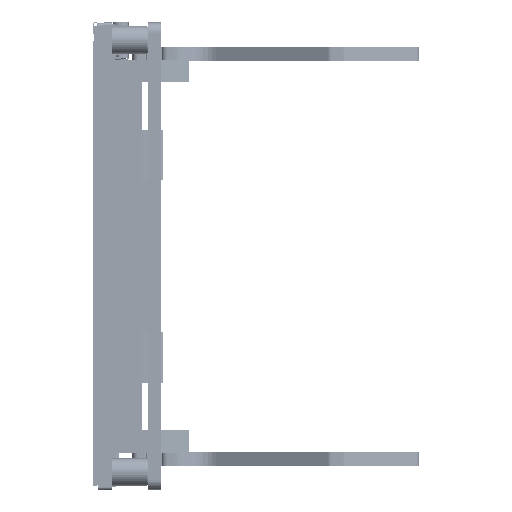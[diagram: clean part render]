
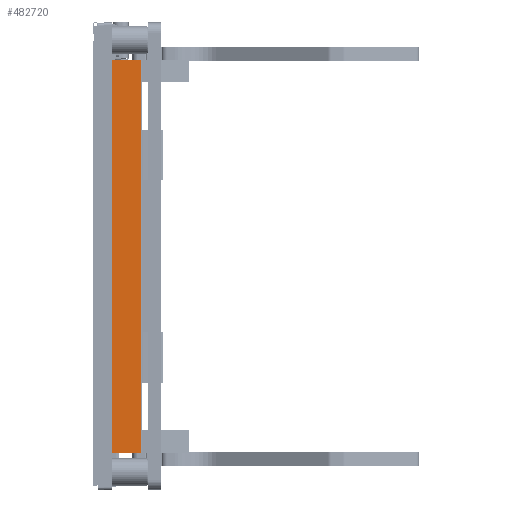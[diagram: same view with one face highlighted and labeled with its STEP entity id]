
A CAD part, left-side view. The second image highlights one B-rep face of the part: STEP entity #482720.
In plain terms, the highlighted planar face has unit normal (-1, 0, 0).
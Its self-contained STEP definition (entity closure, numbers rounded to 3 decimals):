
#479977=DIRECTION('',(0.,-1.,0.));
#479978=VECTOR('',#479977,5.8);
#479979=CARTESIAN_POINT('',(-10.55,5.8,-38.9));
#479980=LINE('',#479979,#479978);
#480791=DIRECTION('',(0.,0.,1.));
#480792=VECTOR('',#480791,77.8);
#480793=CARTESIAN_POINT('',(-10.55,0.,-38.9));
#480794=LINE('',#480793,#480792);
#480910=DIRECTION('',(0.,-1.,0.));
#480911=VECTOR('',#480910,5.8);
#480912=CARTESIAN_POINT('',(-10.55,5.8,38.9));
#480913=LINE('',#480912,#480911);
#481022=DIRECTION('',(0.,0.,-1.));
#481023=VECTOR('',#481022,77.8);
#481024=CARTESIAN_POINT('',(-10.55,5.8,38.9));
#481025=LINE('',#481024,#481023);
#481794=CARTESIAN_POINT('',(-10.55,0.,-38.9));
#481795=CARTESIAN_POINT('',(-10.55,0.,38.9));
#481796=VERTEX_POINT('',#481794);
#481797=VERTEX_POINT('',#481795);
#481834=CARTESIAN_POINT('',(-10.55,5.8,-38.9));
#481836=VERTEX_POINT('',#481834);
#481840=CARTESIAN_POINT('',(-10.55,5.8,38.9));
#481841=VERTEX_POINT('',#481840);
#482709=CARTESIAN_POINT('',(-10.55,6.,-38.9));
#482710=DIRECTION('',(-1.,0.,0.));
#482711=DIRECTION('',(0.,-1.,0.));
#482712=AXIS2_PLACEMENT_3D('',#482709,#482710,#482711);
#482713=PLANE('',#482712);
#482714=ORIENTED_EDGE('',*,*,#482048,.F.);
#482715=ORIENTED_EDGE('',*,*,#482587,.T.);
#482716=ORIENTED_EDGE('',*,*,#482535,.F.);
#482717=ORIENTED_EDGE('',*,*,#481984,.F.);
#482718=EDGE_LOOP('',(#482714,#482715,#482716,#482717));
#482719=FACE_OUTER_BOUND('',#482718,.F.);
#482720=ADVANCED_FACE('',(#482719),#482713,.T.);
#481984=EDGE_CURVE('',#481836,#481796,#479980,.T.);
#482048=EDGE_CURVE('',#481841,#481836,#481025,.T.);
#482535=EDGE_CURVE('',#481796,#481797,#480794,.T.);
#482587=EDGE_CURVE('',#481841,#481797,#480913,.T.);
